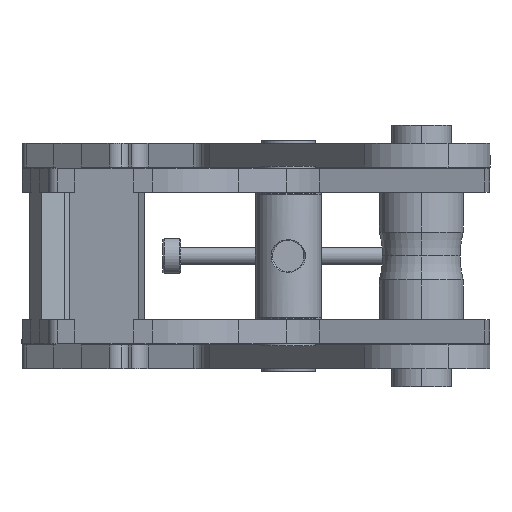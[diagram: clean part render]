
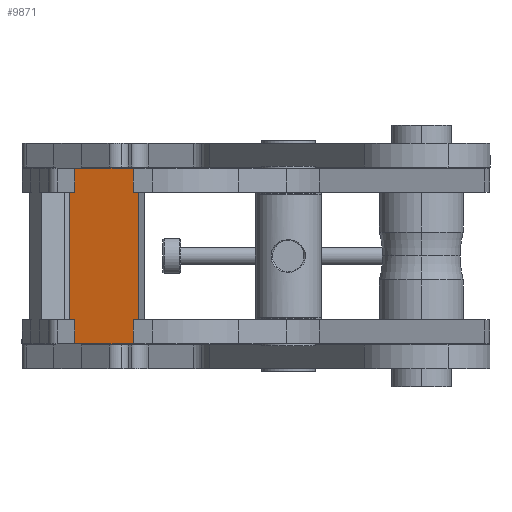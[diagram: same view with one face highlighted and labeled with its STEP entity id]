
A CAD part, left-side view. The second image highlights one B-rep face of the part: STEP entity #9871.
In plain terms, the highlighted planar face has unit normal (-0.975, 0.225, 0) as drawn and (0, 0, -1) by its records, which use the part's own axes.
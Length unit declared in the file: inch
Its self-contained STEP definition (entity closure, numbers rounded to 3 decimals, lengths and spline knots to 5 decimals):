
#189 = VERTEX_POINT ( 'NONE', #19769 ) ;
#262 = ORIENTED_EDGE ( 'NONE', *, *, #7140, .F. ) ;
#494 = DIRECTION ( 'NONE',  ( 1., 0., 0. ) ) ;
#1042 = EDGE_CURVE ( 'NONE', #21384, #189, #2439, .T. ) ;
#1066 = EDGE_CURVE ( 'NONE', #5951, #17413, #16993, .T. ) ;
#1569 = DIRECTION ( 'NONE',  ( -1., 0., 0. ) ) ;
#2349 = VECTOR ( 'NONE', #19608, 39.37008 ) ;
#2366 = ORIENTED_EDGE ( 'NONE', *, *, #16656, .F. ) ;
#2439 = LINE ( 'NONE', #2546, #10290 ) ;
#2546 = CARTESIAN_POINT ( 'NONE',  ( 2.66, 0., 0. ) ) ;
#2550 = CARTESIAN_POINT ( 'NONE',  ( 0., 0., 0. ) ) ;
#3198 = CARTESIAN_POINT ( 'NONE',  ( 3.16, 1.375, 0. ) ) ;
#3796 = VECTOR ( 'NONE', #494, 39.37008 ) ;
#4036 = VERTEX_POINT ( 'NONE', #10168 ) ;
#4333 = LINE ( 'NONE', #2550, #6962 ) ;
#4596 = EDGE_CURVE ( 'NONE', #4812, #4036, #20400, .T. ) ;
#4767 = LINE ( 'NONE', #6891, #5933 ) ;
#4812 = VERTEX_POINT ( 'NONE', #5085 ) ;
#4896 = VERTEX_POINT ( 'NONE', #21182 ) ;
#5085 = CARTESIAN_POINT ( 'NONE',  ( 3.16, 1.375, 0. ) ) ;
#5203 = VECTOR ( 'NONE', #21752, 39.37008 ) ;
#5545 = CARTESIAN_POINT ( 'NONE',  ( 0., 0., 0. ) ) ;
#5559 = CARTESIAN_POINT ( 'NONE',  ( 0., 0.125, 0. ) ) ;
#5800 = DIRECTION ( 'NONE',  ( 0., -1., 0. ) ) ;
#5844 = ORIENTED_EDGE ( 'NONE', *, *, #1042, .F. ) ;
#5933 = VECTOR ( 'NONE', #15458, 39.37008 ) ;
#5951 = VERTEX_POINT ( 'NONE', #7208 ) ;
#5993 = VECTOR ( 'NONE', #12059, 39.37008 ) ;
#6189 = ORIENTED_EDGE ( 'NONE', *, *, #9517, .F. ) ;
#6565 = DIRECTION ( 'NONE',  ( 0., -1., 0. ) ) ;
#6573 = EDGE_CURVE ( 'NONE', #17413, #8324, #11189, .T. ) ;
#6774 = LINE ( 'NONE', #3198, #17341 ) ;
#6891 = CARTESIAN_POINT ( 'NONE',  ( 2.66, 1.375, 0. ) ) ;
#6918 = EDGE_CURVE ( 'NONE', #4036, #4896, #4767, .T. ) ;
#6924 = VECTOR ( 'NONE', #1569, 39.37008 ) ;
#6962 = VECTOR ( 'NONE', #5800, 39.37008 ) ;
#7140 = EDGE_CURVE ( 'NONE', #8324, #12612, #9155, .T. ) ;
#7208 = CARTESIAN_POINT ( 'NONE',  ( 0., 1.375, 0. ) ) ;
#7298 = VERTEX_POINT ( 'NONE', #16350 ) ;
#7397 = ORIENTED_EDGE ( 'NONE', *, *, #20814, .F. ) ;
#7971 = ORIENTED_EDGE ( 'NONE', *, *, #12481, .F. ) ;
#8324 = VERTEX_POINT ( 'NONE', #11486 ) ;
#8418 = ORIENTED_EDGE ( 'NONE', *, *, #12979, .F. ) ;
#8585 = DIRECTION ( 'NONE',  ( 0., 0., 1. ) ) ;
#9155 = LINE ( 'NONE', #5559, #3796 ) ;
#9517 = EDGE_CURVE ( 'NONE', #7298, #4812, #6774, .T. ) ;
#9871 = ADVANCED_FACE ( 'NONE', ( #13884 ), #14108, .F. ) ;
#10168 = CARTESIAN_POINT ( 'NONE',  ( 2.66, 1.375, 0. ) ) ;
#10225 = DIRECTION ( 'NONE',  ( 1., 0., 0. ) ) ;
#10290 = VECTOR ( 'NONE', #13102, 39.37008 ) ;
#11189 = LINE ( 'NONE', #12994, #19960 ) ;
#11364 = CARTESIAN_POINT ( 'NONE',  ( 0., 1.5, 0. ) ) ;
#11486 = CARTESIAN_POINT ( 'NONE',  ( -0.5, 0.125, 0. ) ) ;
#12059 = DIRECTION ( 'NONE',  ( -1., 0., 0. ) ) ;
#12261 = AXIS2_PLACEMENT_3D ( 'NONE', #5545, #8585, #12424 ) ;
#12424 = DIRECTION ( 'NONE',  ( 1., 0., 0. ) ) ;
#12481 = EDGE_CURVE ( 'NONE', #4896, #16857, #19915, .T. ) ;
#12612 = VERTEX_POINT ( 'NONE', #13960 ) ;
#12748 = CARTESIAN_POINT ( 'NONE',  ( 0., 1.375, 0. ) ) ;
#12827 = EDGE_LOOP ( 'NONE', ( #7397, #262, #13360, #14282, #19783, #7971, #15136, #13114, #6189, #2366, #5844, #8418 ) ) ;
#12979 = EDGE_CURVE ( 'NONE', #16328, #21384, #14071, .T. ) ;
#12994 = CARTESIAN_POINT ( 'NONE',  ( -0.5, 0.125, 0. ) ) ;
#13102 = DIRECTION ( 'NONE',  ( 0., 1., 0. ) ) ;
#13114 = ORIENTED_EDGE ( 'NONE', *, *, #4596, .F. ) ;
#13360 = ORIENTED_EDGE ( 'NONE', *, *, #6573, .F. ) ;
#13645 = DIRECTION ( 'NONE',  ( 0., 1., 0. ) ) ;
#13836 = CARTESIAN_POINT ( 'NONE',  ( 0., 0., 0. ) ) ;
#13884 = FACE_OUTER_BOUND ( 'NONE', #12827, .T. ) ;
#13960 = CARTESIAN_POINT ( 'NONE',  ( 0., 0.125, 0. ) ) ;
#14071 = LINE ( 'NONE', #13836, #18815 ) ;
#14108 = PLANE ( 'NONE',  #12261 ) ;
#14112 = LINE ( 'NONE', #12748, #2349 ) ;
#14282 = ORIENTED_EDGE ( 'NONE', *, *, #1066, .F. ) ;
#14874 = CARTESIAN_POINT ( 'NONE',  ( -0.5, 1.375, 0. ) ) ;
#15136 = ORIENTED_EDGE ( 'NONE', *, *, #6918, .F. ) ;
#15297 = VECTOR ( 'NONE', #22101, 39.37008 ) ;
#15458 = DIRECTION ( 'NONE',  ( 0., 1., 0. ) ) ;
#16328 = VERTEX_POINT ( 'NONE', #18593 ) ;
#16350 = CARTESIAN_POINT ( 'NONE',  ( 3.16, 0.125, 0. ) ) ;
#16555 = LINE ( 'NONE', #16782, #5203 ) ;
#16564 = CARTESIAN_POINT ( 'NONE',  ( 2.66, 0., 0. ) ) ;
#16656 = EDGE_CURVE ( 'NONE', #189, #7298, #16555, .T. ) ;
#16782 = CARTESIAN_POINT ( 'NONE',  ( 2.66, 0.125, 0. ) ) ;
#16857 = VERTEX_POINT ( 'NONE', #21471 ) ;
#16993 = LINE ( 'NONE', #20608, #5993 ) ;
#17341 = VECTOR ( 'NONE', #13645, 39.37008 ) ;
#17413 = VERTEX_POINT ( 'NONE', #14874 ) ;
#18593 = CARTESIAN_POINT ( 'NONE',  ( 0., 0., 0. ) ) ;
#18815 = VECTOR ( 'NONE', #10225, 39.37008 ) ;
#19608 = DIRECTION ( 'NONE',  ( 0., -1., 0. ) ) ;
#19769 = CARTESIAN_POINT ( 'NONE',  ( 2.66, 0.125, 0. ) ) ;
#19783 = ORIENTED_EDGE ( 'NONE', *, *, #21926, .F. ) ;
#19915 = LINE ( 'NONE', #11364, #6924 ) ;
#19960 = VECTOR ( 'NONE', #6565, 39.37008 ) ;
#20400 = LINE ( 'NONE', #20625, #15297 ) ;
#20608 = CARTESIAN_POINT ( 'NONE',  ( 0., 1.375, 0. ) ) ;
#20625 = CARTESIAN_POINT ( 'NONE',  ( 2.66, 1.375, 0. ) ) ;
#20814 = EDGE_CURVE ( 'NONE', #12612, #16328, #4333, .T. ) ;
#21182 = CARTESIAN_POINT ( 'NONE',  ( 2.66, 1.5, 0. ) ) ;
#21384 = VERTEX_POINT ( 'NONE', #16564 ) ;
#21471 = CARTESIAN_POINT ( 'NONE',  ( 0., 1.5, 0. ) ) ;
#21752 = DIRECTION ( 'NONE',  ( 1., 0., 0. ) ) ;
#21926 = EDGE_CURVE ( 'NONE', #16857, #5951, #14112, .T. ) ;
#22101 = DIRECTION ( 'NONE',  ( -1., 0., 0. ) ) ;
